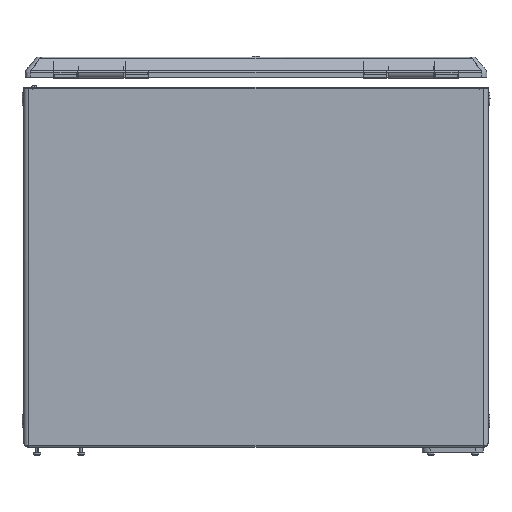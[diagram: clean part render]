
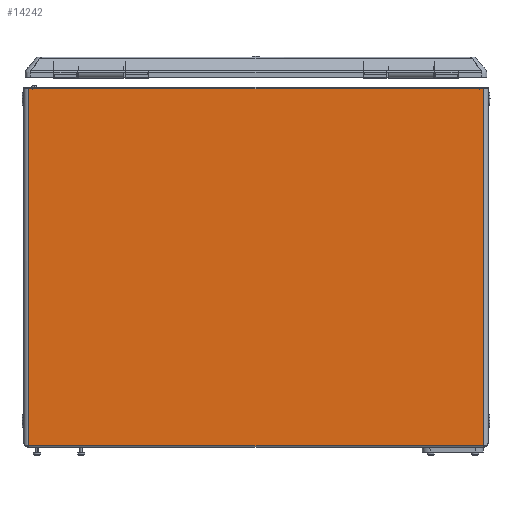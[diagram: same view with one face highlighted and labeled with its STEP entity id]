
A CAD part, front view. The second image highlights one B-rep face of the part: STEP entity #14242.
In plain terms, the highlighted planar face has unit normal (0, -1, 0).
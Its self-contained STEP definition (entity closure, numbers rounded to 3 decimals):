
#1056 = ORIENTED_EDGE ( 'NONE', *, *, #18734, .T. ) ;
#1195 = VECTOR ( 'NONE', #15814, 1000. ) ;
#1521 = DIRECTION ( 'NONE',  ( 0., 1., 0. ) ) ;
#1612 = DIRECTION ( 'NONE',  ( -1., 0., 0. ) ) ;
#1799 = CARTESIAN_POINT ( 'NONE',  ( 288., -200., 462.4 ) ) ;
#1965 = VERTEX_POINT ( 'NONE', #59269 ) ;
#2302 = CARTESIAN_POINT ( 'NONE',  ( 293., -200., 462.2 ) ) ;
#2919 = CARTESIAN_POINT ( 'NONE',  ( 293., -200., 2.1 ) ) ;
#3298 = ORIENTED_EDGE ( 'NONE', *, *, #30020, .T. ) ;
#4554 = CARTESIAN_POINT ( 'NONE',  ( -288., -200., 462.4 ) ) ;
#4989 = LINE ( 'NONE', #24964, #1195 ) ;
#6864 = ORIENTED_EDGE ( 'NONE', *, *, #36361, .T. ) ;
#8761 = AXIS2_PLACEMENT_3D ( 'NONE', #16262, #1521, #16579 ) ;
#9545 = EDGE_CURVE ( 'NONE', #13431, #43023, #31332, .T. ) ;
#9821 = EDGE_CURVE ( 'NONE', #21211, #27303, #4989, .T. ) ;
#10461 = CARTESIAN_POINT ( 'NONE',  ( 288., -200., 462.2 ) ) ;
#11108 = ORIENTED_EDGE ( 'NONE', *, *, #30840, .T. ) ;
#12338 = CARTESIAN_POINT ( 'NONE',  ( -288.2, -200., 462.2 ) ) ;
#12919 = LINE ( 'NONE', #32869, #14645 ) ;
#13130 = VECTOR ( 'NONE', #1612, 1000. ) ;
#13431 = VERTEX_POINT ( 'NONE', #10461 ) ;
#14242 = ADVANCED_FACE ( 'NONE', ( #31951 ), #40756, .F. ) ;
#14550 = VERTEX_POINT ( 'NONE', #4554 ) ;
#14645 = VECTOR ( 'NONE', #52792, 1000. ) ;
#14723 = VECTOR ( 'NONE', #54651, 1000. ) ;
#15105 = CARTESIAN_POINT ( 'NONE',  ( 293., -200., 0. ) ) ;
#15762 = EDGE_LOOP ( 'NONE', ( #48282, #18836, #54747, #45561, #11108, #59934, #20114, #3298, #6864, #43562, #19066, #1056 ) ) ;
#15814 = DIRECTION ( 'NONE',  ( 0., 0., 1. ) ) ;
#16262 = CARTESIAN_POINT ( 'NONE',  ( 293., -200., 0. ) ) ;
#16579 = DIRECTION ( 'NONE',  ( 0., 0., 1. ) ) ;
#16826 = VECTOR ( 'NONE', #58716, 1000. ) ;
#18011 = CARTESIAN_POINT ( 'NONE',  ( 288.2, -200., 463. ) ) ;
#18734 = EDGE_CURVE ( 'NONE', #43023, #14550, #46720, .T. ) ;
#18836 = ORIENTED_EDGE ( 'NONE', *, *, #54302, .T. ) ;
#19066 = ORIENTED_EDGE ( 'NONE', *, *, #9545, .T. ) ;
#19408 = CARTESIAN_POINT ( 'NONE',  ( -293., -200., 2.1 ) ) ;
#20114 = ORIENTED_EDGE ( 'NONE', *, *, #59251, .F. ) ;
#21211 = VERTEX_POINT ( 'NONE', #12338 ) ;
#21322 = DIRECTION ( 'NONE',  ( 0., 0., -1. ) ) ;
#21622 = DIRECTION ( 'NONE',  ( -1., 0., 0. ) ) ;
#23463 = LINE ( 'NONE', #48910, #60450 ) ;
#24964 = CARTESIAN_POINT ( 'NONE',  ( -288.2, -200., 0. ) ) ;
#25234 = LINE ( 'NONE', #15105, #28212 ) ;
#26187 = VECTOR ( 'NONE', #21622, 1000. ) ;
#27181 = DIRECTION ( 'NONE',  ( -1., 0., 0. ) ) ;
#27303 = VERTEX_POINT ( 'NONE', #36412 ) ;
#28212 = VECTOR ( 'NONE', #60810, 1000. ) ;
#30020 = EDGE_CURVE ( 'NONE', #51150, #49132, #38462, .T. ) ;
#30103 = VECTOR ( 'NONE', #27181, 1000. ) ;
#30629 = EDGE_CURVE ( 'NONE', #54604, #27303, #39269, .T. ) ;
#30840 = EDGE_CURVE ( 'NONE', #54604, #50700, #45148, .T. ) ;
#31001 = DIRECTION ( 'NONE',  ( 0., 0., 1. ) ) ;
#31332 = LINE ( 'NONE', #60381, #45056 ) ;
#31774 = CARTESIAN_POINT ( 'NONE',  ( -293., -200., 0. ) ) ;
#31951 = FACE_OUTER_BOUND ( 'NONE', #15762, .T. ) ;
#32869 = CARTESIAN_POINT ( 'NONE',  ( -288., -200., 0. ) ) ;
#33886 = DIRECTION ( 'NONE',  ( -1., 0., 0. ) ) ;
#35836 = VERTEX_POINT ( 'NONE', #50206 ) ;
#36361 = EDGE_CURVE ( 'NONE', #49132, #58834, #23463, .T. ) ;
#36412 = CARTESIAN_POINT ( 'NONE',  ( -288.2, -200., 463. ) ) ;
#38462 = LINE ( 'NONE', #48607, #16826 ) ;
#39097 = DIRECTION ( 'NONE',  ( 0., 0., -1. ) ) ;
#39269 = LINE ( 'NONE', #42662, #14723 ) ;
#40756 = PLANE ( 'NONE',  #8761 ) ;
#42174 = LINE ( 'NONE', #2919, #26187 ) ;
#42662 = CARTESIAN_POINT ( 'NONE',  ( -293., -200., 463. ) ) ;
#43023 = VERTEX_POINT ( 'NONE', #1799 ) ;
#43035 = CARTESIAN_POINT ( 'NONE',  ( 293., -200., 462.2 ) ) ;
#43562 = ORIENTED_EDGE ( 'NONE', *, *, #53051, .T. ) ;
#45056 = VECTOR ( 'NONE', #31001, 1000. ) ;
#45148 = LINE ( 'NONE', #31774, #47045 ) ;
#45561 = ORIENTED_EDGE ( 'NONE', *, *, #30629, .F. ) ;
#46720 = LINE ( 'NONE', #61758, #13130 ) ;
#47045 = VECTOR ( 'NONE', #21322, 1000. ) ;
#48282 = ORIENTED_EDGE ( 'NONE', *, *, #53561, .T. ) ;
#48607 = CARTESIAN_POINT ( 'NONE',  ( 293., -200., 463. ) ) ;
#48910 = CARTESIAN_POINT ( 'NONE',  ( 288.2, -200., 0. ) ) ;
#49132 = VERTEX_POINT ( 'NONE', #18011 ) ;
#50206 = CARTESIAN_POINT ( 'NONE',  ( -288., -200., 462.2 ) ) ;
#50700 = VERTEX_POINT ( 'NONE', #19408 ) ;
#51150 = VERTEX_POINT ( 'NONE', #52474 ) ;
#52474 = CARTESIAN_POINT ( 'NONE',  ( 293., -200., 463. ) ) ;
#52792 = DIRECTION ( 'NONE',  ( 0., 0., -1. ) ) ;
#53051 = EDGE_CURVE ( 'NONE', #58834, #13431, #58693, .T. ) ;
#53561 = EDGE_CURVE ( 'NONE', #14550, #35836, #12919, .T. ) ;
#54234 = CARTESIAN_POINT ( 'NONE',  ( -293., -200., 463. ) ) ;
#54302 = EDGE_CURVE ( 'NONE', #35836, #21211, #61796, .T. ) ;
#54604 = VERTEX_POINT ( 'NONE', #54234 ) ;
#54651 = DIRECTION ( 'NONE',  ( 1., 0., 0. ) ) ;
#54747 = ORIENTED_EDGE ( 'NONE', *, *, #9821, .T. ) ;
#58693 = LINE ( 'NONE', #43035, #60474 ) ;
#58716 = DIRECTION ( 'NONE',  ( -1., 0., 0. ) ) ;
#58834 = VERTEX_POINT ( 'NONE', #60234 ) ;
#59251 = EDGE_CURVE ( 'NONE', #51150, #1965, #25234, .T. ) ;
#59269 = CARTESIAN_POINT ( 'NONE',  ( 293., -200., 2.1 ) ) ;
#59715 = EDGE_CURVE ( 'NONE', #1965, #50700, #42174, .T. ) ;
#59934 = ORIENTED_EDGE ( 'NONE', *, *, #59715, .F. ) ;
#60234 = CARTESIAN_POINT ( 'NONE',  ( 288.2, -200., 462.2 ) ) ;
#60381 = CARTESIAN_POINT ( 'NONE',  ( 288., -200., 0. ) ) ;
#60450 = VECTOR ( 'NONE', #39097, 1000. ) ;
#60474 = VECTOR ( 'NONE', #33886, 1000. ) ;
#60810 = DIRECTION ( 'NONE',  ( 0., 0., -1. ) ) ;
#61758 = CARTESIAN_POINT ( 'NONE',  ( 293., -200., 462.4 ) ) ;
#61796 = LINE ( 'NONE', #2302, #30103 ) ;
